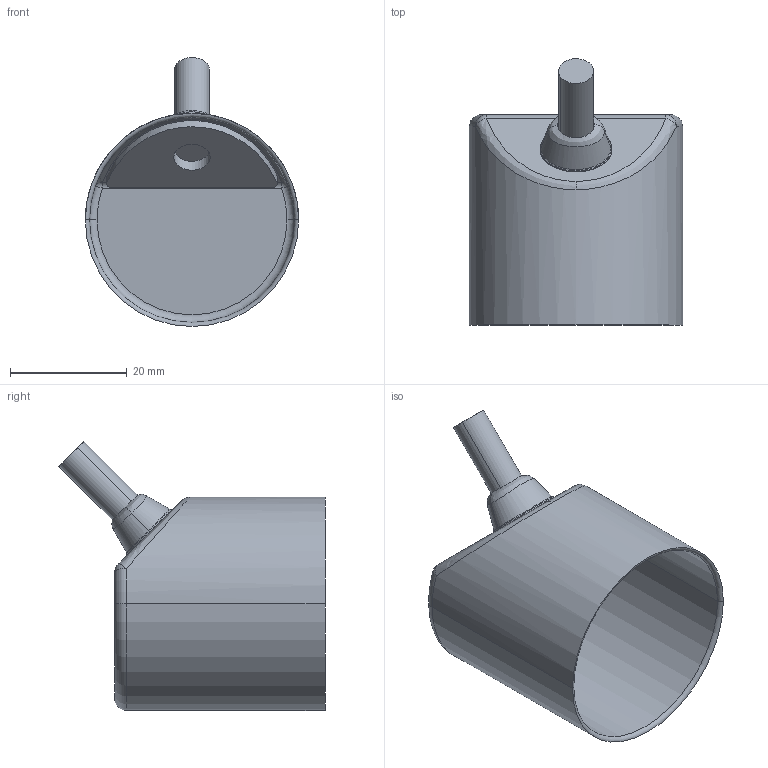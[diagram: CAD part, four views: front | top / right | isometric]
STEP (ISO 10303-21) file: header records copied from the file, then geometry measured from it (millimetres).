
FILE_DESCRIPTION (( 'STEP AP214' ), '1' );
FILE_NAME ('Drawing-MA-Housing-MC-3-CX-360-SXM-09B-09B-N.STEP', '2020-08-06T10:37:14', ( '' ), ( '' ), 'SwSTEP 2.0', 'SolidWorks 2019', '' );
FILE_SCHEMA (( 'AUTOMOTIVE_DESIGN' ));
Length unit declared in the file: millimetre
Products named in the file (2): Drawing-MA-Housing-MC-3-CX-360-SXM-09B-09B-N
Bounding box: 36.5 x 45.55 x 46.05 mm (x, y, z)
Volume: 4517.7 mm3; surface area: 10843.7 mm2
Topology: 3 solids, 3 shells, 63 faces, 169 edges, 109 vertices
Faces by surface type: cylinder 20, bspline 15, plane 14, torus 10, sphere 4
Entity records: 4389 total; most frequent: CARTESIAN_POINT 2180, ORIENTED_EDGE 330, DIRECTION 270, EDGE_CURVE 165, AXIS2_PLACEMENT_3D 116, VERTEX_POINT 109, UNCERTAINTY_MEASURE_WITH_UNIT 68, EDGE_LOOP 68
